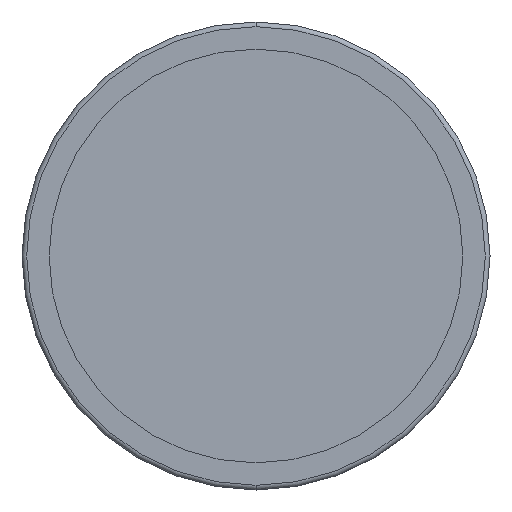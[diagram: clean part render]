
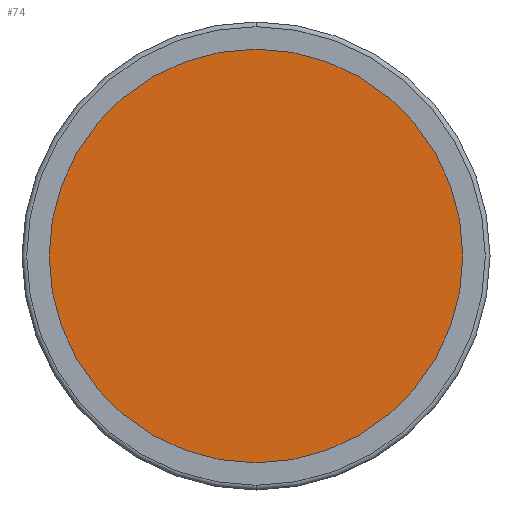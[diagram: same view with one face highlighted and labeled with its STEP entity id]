
A CAD part, front view. The second image highlights one B-rep face of the part: STEP entity #74.
In plain terms, the highlighted planar face has unit normal (0, -1, 0).
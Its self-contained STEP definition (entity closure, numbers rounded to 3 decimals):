
#57 = FACE_OUTER_BOUND ( 'NONE', #1453, .T. ) ;
#74 = ADVANCED_FACE ( 'NONE', ( #57 ), #1444, .T. ) ;
#343 = ORIENTED_EDGE ( 'NONE', *, *, #565, .F. ) ;
#501 = AXIS2_PLACEMENT_3D ( 'NONE', #2350, #1599, #2325 ) ;
#504 = DIRECTION ( 'NONE',  ( 0., -1., 0. ) ) ;
#565 = EDGE_CURVE ( 'NONE', #2269, #1619, #1699, .T. ) ;
#722 = CARTESIAN_POINT ( 'NONE',  ( -43.75, -3., 0. ) ) ;
#872 = CIRCLE ( 'NONE', #1190, 43.75 ) ;
#1039 = CARTESIAN_POINT ( 'NONE',  ( 0., -3., -43.75 ) ) ;
#1180 = CARTESIAN_POINT ( 'NONE',  ( 0., -3., 0. ) ) ;
#1190 = AXIS2_PLACEMENT_3D ( 'NONE', #1180, #2236, #1340 ) ;
#1340 = DIRECTION ( 'NONE',  ( 0., 0., 1. ) ) ;
#1444 = PLANE ( 'NONE',  #2289 ) ;
#1453 = EDGE_LOOP ( 'NONE', ( #2403, #343 ) ) ;
#1456 = DIRECTION ( 'NONE',  ( 0., 0., -1. ) ) ;
#1599 = DIRECTION ( 'NONE',  ( 0., 1., 0. ) ) ;
#1619 = VERTEX_POINT ( 'NONE', #1972 ) ;
#1699 = CIRCLE ( 'NONE', #501, 43.75 ) ;
#1972 = CARTESIAN_POINT ( 'NONE',  ( 0., -3., 43.75 ) ) ;
#2182 = EDGE_CURVE ( 'NONE', #1619, #2269, #872, .T. ) ;
#2236 = DIRECTION ( 'NONE',  ( 0., 1., 0. ) ) ;
#2269 = VERTEX_POINT ( 'NONE', #1039 ) ;
#2289 = AXIS2_PLACEMENT_3D ( 'NONE', #722, #504, #1456 ) ;
#2325 = DIRECTION ( 'NONE',  ( 0., 0., 1. ) ) ;
#2350 = CARTESIAN_POINT ( 'NONE',  ( 0., -3., 0. ) ) ;
#2403 = ORIENTED_EDGE ( 'NONE', *, *, #2182, .F. ) ;
